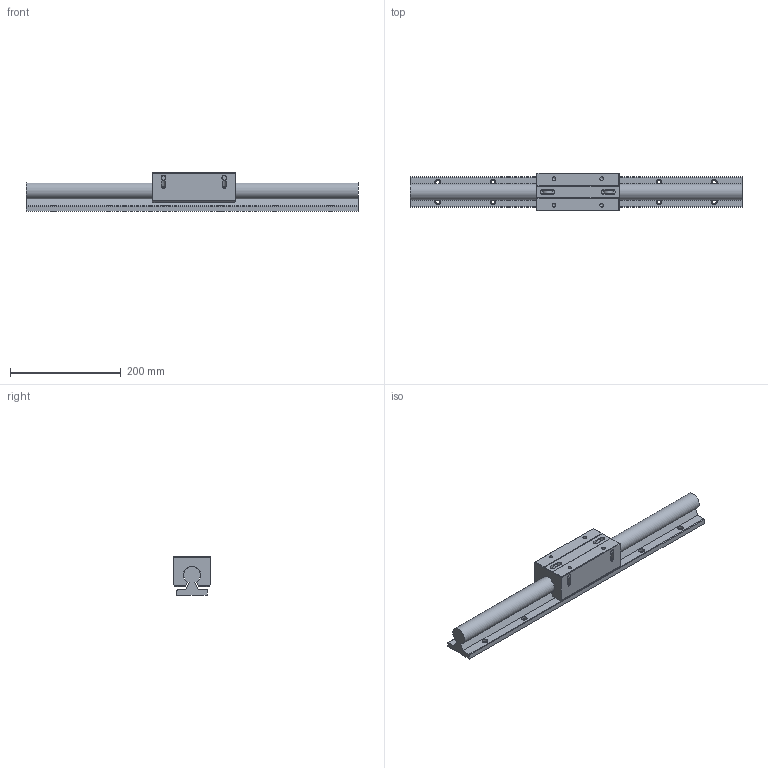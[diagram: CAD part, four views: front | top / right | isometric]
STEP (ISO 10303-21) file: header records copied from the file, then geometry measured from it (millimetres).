
FILE_DESCRIPTION((''),'2;1');
FILE_NAME('D:\製品 (図面)\カタログ用3D\リニアガイド関連\STEP形式\SLGW\SLGW30.stp','2010-06-02T16:58:11',('Tsuchiya'),(''),'Autodesk Inventor 10','Autodesk Inventor 10','');
FILE_SCHEMA(('AUTOMOTIVE_DESIGN { 1 0 10303 214 1 1 1 1 }'));
Length unit declared in the file: millimetre
Products named in the file (3): SLGW30; SLGW301; SLGW302
Assembly tree (2 placements, depth 2):
  SLGW30
    SLGW301
    SLGW302
Bounding box: 600 x 68 x 70 mm (x, y, z)
Volume: 1250692.7 mm3; surface area: 200300.4 mm2
Topology: 2 solids, 2 shells, 237 faces, 549 edges, 356 vertices
Faces by surface type: bspline 108, plane 76, cylinder 30, cone 20, torus 3
Full cylindrical faces by diameter (mm): 6 x3, 6.647 x2, 7 x3, 8 x3, 9 x4, 17 x3
Entity records: 7378 total; most frequent: CARTESIAN_POINT 2734, ORIENTED_EDGE 858, DIRECTION 831, EDGE_CURVE 429, EDGE_LOOP 403, VERTEX_POINT 330, AXIS2_PLACEMENT_3D 318, FACE_OUTER_BOUND 237
